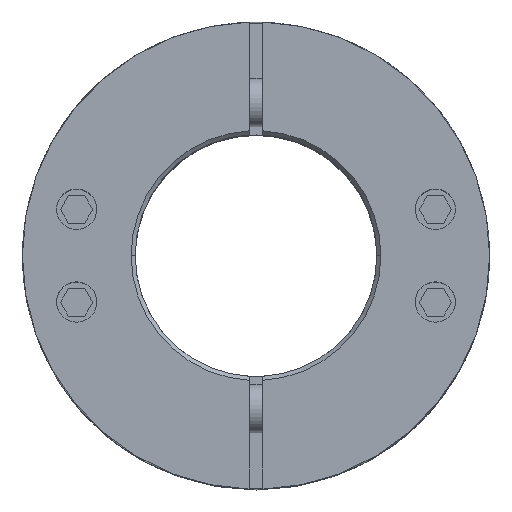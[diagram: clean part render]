
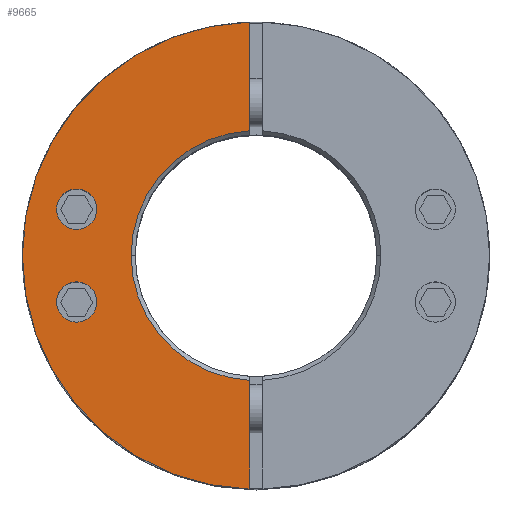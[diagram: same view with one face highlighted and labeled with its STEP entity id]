
A CAD part, top view. The second image highlights one B-rep face of the part: STEP entity #9665.
In plain terms, the highlighted planar face has unit normal (0, 0, 1).
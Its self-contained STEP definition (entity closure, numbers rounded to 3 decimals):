
#2545=CARTESIAN_POINT('',(-19.767,-5.759,27.125));
#2546=VERTEX_POINT('',#2545);
#2555=CARTESIAN_POINT('',(-24.767,-5.759,27.125));
#2556=VERTEX_POINT('',#2555);
#2557=CARTESIAN_POINT('',(-22.267,-5.759,27.125));
#2558=DIRECTION('',(0.0,0.0,-1.0));
#2559=DIRECTION('',(1.0,0.0,0.0));
#2560=AXIS2_PLACEMENT_3D('',#2557,#2558,#2559);
#2561=CIRCLE('',#2560,2.5);
#2562=EDGE_CURVE('',#2556,#2546,#2561,.T.);
#2671=CARTESIAN_POINT('',(-19.767,5.759,27.125));
#2672=VERTEX_POINT('',#2671);
#2681=CARTESIAN_POINT('',(-24.767,5.759,27.125));
#2682=VERTEX_POINT('',#2681);
#2683=CARTESIAN_POINT('',(-22.267,5.759,27.125));
#2684=DIRECTION('',(0.0,0.0,-1.0));
#2685=DIRECTION('',(1.0,0.0,0.0));
#2686=AXIS2_PLACEMENT_3D('',#2683,#2684,#2685);
#2687=CIRCLE('',#2686,2.5);
#2688=EDGE_CURVE('',#2682,#2672,#2687,.T.);
#2900=CARTESIAN_POINT('',(-29.0,0.,27.125));
#2901=VERTEX_POINT('',#2900);
#2908=CARTESIAN_POINT('',(-0.75,28.99,27.125));
#2909=VERTEX_POINT('',#2908);
#2910=CARTESIAN_POINT('',(0.0,0.0,27.125));
#2911=DIRECTION('',(0.0,0.0,-1.0));
#2912=DIRECTION('',(1.0,0.0,0.0));
#2913=AXIS2_PLACEMENT_3D('',#2910,#2911,#2912);
#2914=CIRCLE('',#2913,29.0);
#2915=EDGE_CURVE('',#2901,#2909,#2914,.T.);
#3262=CARTESIAN_POINT('',(-15.5,0.,27.125));
#3263=VERTEX_POINT('',#3262);
#3279=CARTESIAN_POINT('',(-0.75,15.482,27.125));
#3280=VERTEX_POINT('',#3279);
#3294=CARTESIAN_POINT('',(0.0,0.0,27.125));
#3295=DIRECTION('',(0.0,0.0,1.0));
#3296=DIRECTION('',(-1.0,0.0,0.0));
#3297=AXIS2_PLACEMENT_3D('',#3294,#3295,#3296);
#3298=CIRCLE('',#3297,15.5);
#3299=EDGE_CURVE('',#3280,#3263,#3298,.T.);
#9418=CARTESIAN_POINT('',(-0.75,-15.482,27.125));
#9419=VERTEX_POINT('',#9418);
#9420=CARTESIAN_POINT('',(0.0,0.0,27.125));
#9421=DIRECTION('',(0.0,0.0,1.0));
#9422=DIRECTION('',(-1.0,0.0,0.0));
#9423=AXIS2_PLACEMENT_3D('',#9420,#9421,#9422);
#9424=CIRCLE('',#9423,15.5);
#9425=EDGE_CURVE('',#3263,#9419,#9424,.T.);
#9458=CARTESIAN_POINT('',(-0.75,15.482,27.125));
#9459=DIRECTION('',(0.0,1.0,0.0));
#9460=VECTOR('',#9459,13.508);
#9461=LINE('',#9458,#9460);
#9462=EDGE_CURVE('',#3280,#2909,#9461,.T.);
#9572=CARTESIAN_POINT('',(-0.75,-28.99,27.125));
#9573=VERTEX_POINT('',#9572);
#9574=CARTESIAN_POINT('',(-0.75,-28.99,27.125));
#9575=DIRECTION('',(0.0,1.0,0.0));
#9576=VECTOR('',#9575,13.508);
#9577=LINE('',#9574,#9576);
#9578=EDGE_CURVE('',#9573,#9419,#9577,.T.);
#9626=CARTESIAN_POINT('',(2.636,0.,27.125));
#9627=DIRECTION('',(0.0,0.0,1.0));
#9628=DIRECTION('',(1.0,0.0,0.0));
#9629=AXIS2_PLACEMENT_3D('',#9626,#9627,#9628);
#9630=PLANE('',#9629);
#9631=ORIENTED_EDGE('',*,*,#3299,.F.);
#9632=ORIENTED_EDGE('',*,*,#9462,.T.);
#9633=ORIENTED_EDGE('',*,*,#2915,.F.);
#9634=CARTESIAN_POINT('',(0.0,0.0,27.125));
#9635=DIRECTION('',(0.0,0.0,-1.0));
#9636=DIRECTION('',(1.0,0.0,0.0));
#9637=AXIS2_PLACEMENT_3D('',#9634,#9635,#9636);
#9638=CIRCLE('',#9637,29.0);
#9639=EDGE_CURVE('',#9573,#2901,#9638,.T.);
#9640=ORIENTED_EDGE('',*,*,#9639,.F.);
#9641=ORIENTED_EDGE('',*,*,#9578,.T.);
#9642=ORIENTED_EDGE('',*,*,#9425,.F.);
#9643=EDGE_LOOP('',(#9631,#9632,#9633,#9640,#9641,#9642));
#9644=FACE_OUTER_BOUND('',#9643,.T.);
#9645=CARTESIAN_POINT('',(-22.267,-5.759,27.125));
#9646=DIRECTION('',(0.0,0.0,-1.0));
#9647=DIRECTION('',(1.0,0.0,0.0));
#9648=AXIS2_PLACEMENT_3D('',#9645,#9646,#9647);
#9649=CIRCLE('',#9648,2.5);
#9650=EDGE_CURVE('',#2546,#2556,#9649,.T.);
#9651=ORIENTED_EDGE('',*,*,#9650,.T.);
#9652=ORIENTED_EDGE('',*,*,#2562,.T.);
#9653=EDGE_LOOP('',(#9651,#9652));
#9654=FACE_BOUND('',#9653,.T.);
#9655=CARTESIAN_POINT('',(-22.267,5.759,27.125));
#9656=DIRECTION('',(0.0,0.0,-1.0));
#9657=DIRECTION('',(1.0,0.0,0.0));
#9658=AXIS2_PLACEMENT_3D('',#9655,#9656,#9657);
#9659=CIRCLE('',#9658,2.5);
#9660=EDGE_CURVE('',#2672,#2682,#9659,.T.);
#9661=ORIENTED_EDGE('',*,*,#9660,.T.);
#9662=ORIENTED_EDGE('',*,*,#2688,.T.);
#9663=EDGE_LOOP('',(#9661,#9662));
#9664=FACE_BOUND('',#9663,.T.);
#9665=ADVANCED_FACE('',(#9644,#9654,#9664),#9630,.T.);
